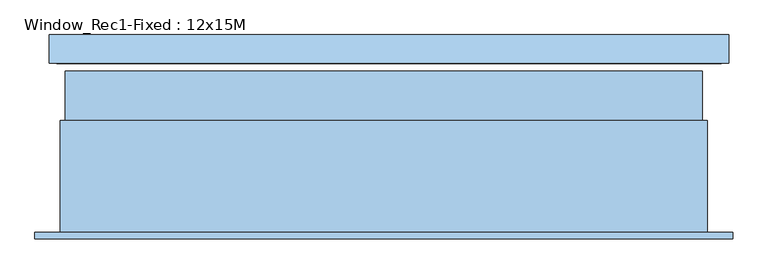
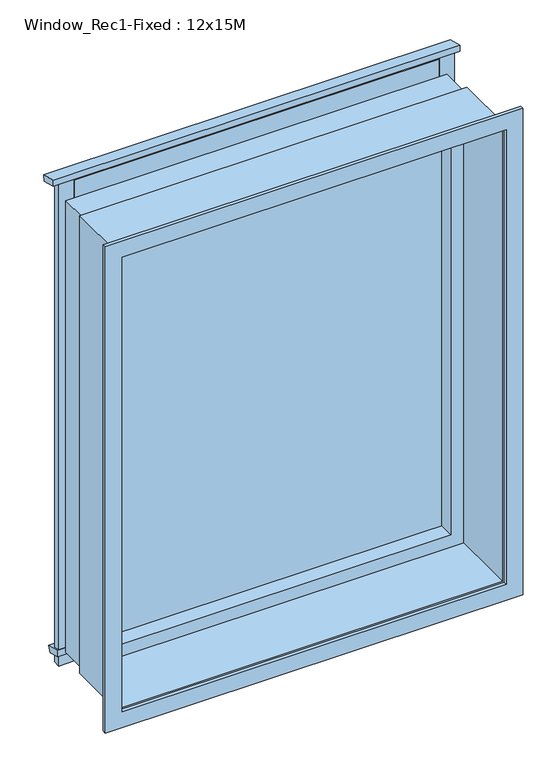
"""IFC4 building model written with IfcOpenShell, lengths in millimetres: window geometry, Window_Rec1-Fixed : 12x15M."""

from ifc_helpers import new_model, si_unit, frame, origin, place, context, project, spatial, polyline, outline, extrude, source, transform, mapped, element, save


def window_rec1_fixed_12x15m_01bd10cc(model_context):
    return source(origin(), model_context, "Body", "SweptSolid", [
        extrude(outline(polyline([(220.0508419, 2544.3065207), (215.1332801, 2525.95393), (166.8369888, 2538.8948822), (166.8369888, 2558.5651297), (220.0508419, 2544.3065207)])), frame((-530.0, 0.0, 0.0), z_axis=(1.0, 0.0, 0.0), x_axis=(0.0, 1.0, 0.0)), (0.0, 0.0, 1.0), 1270.0),
        extrude(outline(polyline([(215.1332801, 990.6791642), (209.4392611, 969.4287961), (166.8369888, 980.8440405), (166.8369888, 1003.6201165), (215.1332801, 990.6791642)])), frame((-516.0, 0.0, 0.0), z_axis=(1.0, 0.0, 0.0), x_axis=(0.0, 1.0, 0.0)), (0.0, 0.0, 1.0), 1242.0),
        extrude(outline(polyline([(-465.0, 166.8369888), (-465.0, 188.8369888), (675.0, 188.8369888), (675.0, 166.8369888), (-465.0, 166.8369888)])), frame((0.0, 0.0, 955.0051732), z_axis=(0.0, 0.0, 1.0), x_axis=(1.0, 0.0, 0.0)), (0.0, 0.0, 1.0), 20.0),
        extrude(outline(polyline([(-465.0, 166.8369888), (-465.0, 188.8369888), (675.0, 188.8369888), (675.0, 166.8369888), (-465.0, 166.8369888)])), frame((0.0, 0.0, 2475.0), z_axis=(0.0, 0.0, 1.0), x_axis=(1.0, 0.0, 0.0)), (0.0, 0.0, 1.0), 60.0),
        extrude(outline(polyline([(723.0, 166.8369888), (675.0, 166.8369888), (675.0, 188.8369888), (723.0, 188.8369888), (723.0, 166.8369888)])), frame((0.0, 0.0, 950.0), z_axis=(0.0, 0.0, 1.0), x_axis=(1.0, 0.0, 0.0)), (0.0, 0.0, 1.0), 1589.0),
        extrude(outline(polyline([(-465.0, 166.8369888), (-513.0, 166.8369888), (-513.0, 188.8369888), (-465.0, 188.8369888), (-465.0, 166.8369888)])), frame((0.0, 0.0, 950.0), z_axis=(0.0, 0.0, 1.0), x_axis=(1.0, 0.0, 0.0)), (0.0, 0.0, 1.0), 1589.1537013),
        extrude(outline(polyline([(2490.0, 690.0), (2490.0, -500.0), (1000.0, -500.0), (1000.0, 690.0), (2490.0, 690.0)]), holes=[polyline([(1040.0, 650.0), (1040.0, -460.0), (2450.0, -460.0), (2450.0, 650.0), (1040.0, 650.0)])]), frame((0.0, 59.8369888, 0.0), z_axis=(0.0, 1.0, 0.0), x_axis=(0.0, 0.0, 1.0)), (0.0, 0.0, 1.0), 92.0),
        extrude(outline(polyline([(650.0, 109.3369888), (-460.0, 109.3369888), (-460.0, 134.3369888), (650.0, 134.3369888), (650.0, 109.3369888)])), frame((0.0, 0.0, 1040.0), z_axis=(0.0, 0.0, 1.0), x_axis=(1.0, 0.0, 0.0)), (0.0, 0.0, 1.0), 1410.0),
        extrude(outline(polyline([(2500.0, 700.0), (2500.0, -510.0), (990.0, -510.0), (990.0, 700.0), (2500.0, 700.0)]), holes=[polyline([(1000.0, -500.0), (2490.0, -500.0), (2490.0, 690.0), (1000.0, 690.0), (1000.0, -500.0)])]), frame((0.0, -149.1630112, 0.0), z_axis=(0.0, 1.0, 0.0), x_axis=(0.0, 0.0, 1.0)), (0.0, 0.0, 1.0), 209.0),
        extrude(outline(polyline([(2547.0, 747.0), (2547.0, -557.0), (943.0, -557.0), (943.0, 747.0), (2547.0, 747.0)]), holes=[polyline([(995.0, 695.0), (995.0, -505.0), (2495.0, -505.0), (2495.0, 695.0), (995.0, 695.0)])]), frame((0.0, -161.1630112, 0.0), z_axis=(0.0, 1.0, 0.0), x_axis=(0.0, 0.0, 1.0)), (0.0, 0.0, 1.0), 12.0),
    ])


if __name__ == "__main__":
    model = new_model("IFC4")
    model_context = context("Model", 3, world=origin())
    ifc_project = project(units=[si_unit("LENGTHUNIT", "METRE", prefix="MILLI")], contexts=[model_context])
    site = spatial("IfcSite", under=ifc_project)
    building = spatial("IfcBuilding", under=site)
    placement = place(None, origin())
    window_rec1_fixed_12x15m_shape = window_rec1_fixed_12x15m_01bd10cc(model_context)
    element("IfcWindow", 1, ObjectType="Window_Rec1-Fixed : 12x15M", at=placement, inside=building, context=model_context, shape_type="MappedRepresentation", body=[
        mapped(window_rec1_fixed_12x15m_shape, transform((0.0, 0.0, 0.0), x_axis=(1.0, 0.0, 0.0), y_axis=(0.0, 1.0, 0.0), z_axis=(0.0, 0.0, 1.0))),
    ])
    save(model, "model.ifc")
